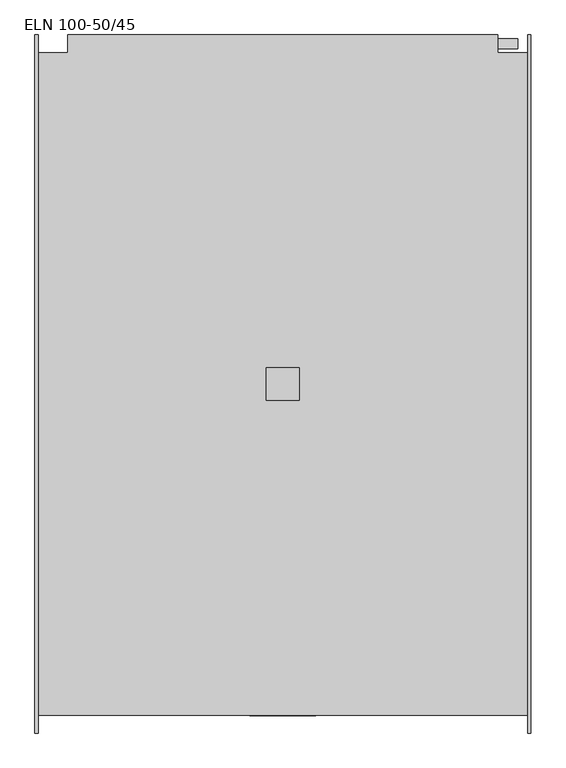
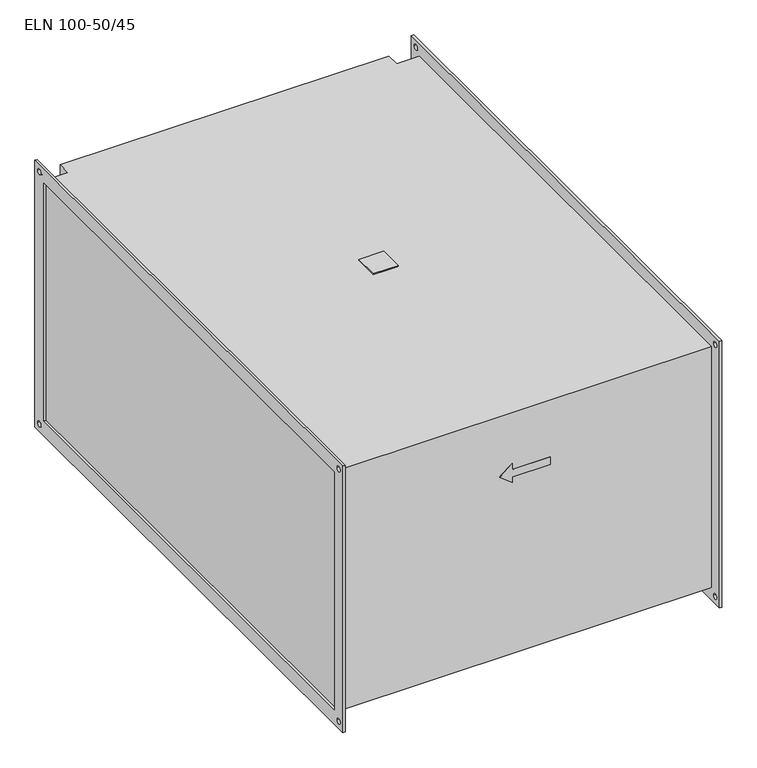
"""IFC4 building model written with IfcOpenShell, lengths in millimetres: proxy geometry, KORF_Нагреватель_Электрический_ELN : ELN 100-50/45."""

from ifc_helpers import new_model, si_unit, point, frame, frame_2d, origin, place, context, project, spatial, polyline, circle_curve, trimmed, segment, composite_curve, outline, extrude, source, transform, mapped, element, save


def eln_100_50_45_c4674b5d(model_context):
    return source(origin(), model_context, "Body", "SweptSolid", [
        extrude(outline(polyline([(351.5, -25.0), (351.5, 25.0), (401.5, 25.0), (401.5, -25.0), (351.5, -25.0)])), frame((0.0, 0.0, 253.0), z_axis=(0.0, 0.0, 1.0), x_axis=(1.0, 0.0, 0.0)), (0.0, 0.0, 1.0), 2.0),
        extrude(outline(composite_curve([segment(trimmed(circle_curve(frame_2d((516.5, -126.5)), 7.5), [point((509.0, -126.5))], [point((524.0, -126.5))], False, "CARTESIAN"), True, "CONTINUOUS"), segment(trimmed(circle_curve(frame_2d((516.5, -126.5)), 7.5), [point((524.0, -126.5))], [point((509.0, -126.5))], False, "CARTESIAN"), True, "CONTINUOUS")], self_intersect=False)), frame((703.0, 0.0, 0.0), z_axis=(1.0, 0.0, 0.0), x_axis=(0.0, 1.0, 0.0)), (0.0, 0.0, 1.0), 30.0),
        extrude(outline(composite_curve([segment(trimmed(circle_curve(frame_2d((516.5, -106.5)), 7.5), [point((509.0, -106.5))], [point((524.0, -106.5))], False, "CARTESIAN"), True, "CONTINUOUS"), segment(trimmed(circle_curve(frame_2d((516.5, -106.5)), 7.5), [point((524.0, -106.5))], [point((509.0, -106.5))], False, "CARTESIAN"), True, "CONTINUOUS")], self_intersect=False)), frame((703.0, 0.0, 0.0), z_axis=(1.0, 0.0, 0.0), x_axis=(0.0, 1.0, 0.0)), (0.0, 0.0, 1.0), 30.0),
        extrude(outline(composite_curve([segment(trimmed(circle_curve(frame_2d((516.5, -146.5)), 7.5), [point((509.0, -146.5))], [point((524.0, -146.5))], False, "CARTESIAN"), True, "CONTINUOUS"), segment(trimmed(circle_curve(frame_2d((516.5, -146.5)), 7.5), [point((524.0, -146.5))], [point((509.0, -146.5))], False, "CARTESIAN"), True, "CONTINUOUS")], self_intersect=False)), frame((703.0, 0.0, 0.0), z_axis=(1.0, 0.0, 0.0), x_axis=(0.0, 1.0, 0.0)), (0.0, 0.0, 1.0), 30.0),
        extrude(outline(polyline([(146.5, 351.5), (126.5, 326.5), (106.5, 351.5), (119.0, 351.5), (119.0, 426.5), (134.0, 426.5), (134.0, 351.5), (146.5, 351.5)])), frame((0.0, -504.0, 0.0), z_axis=(0.0, 1.0, 0.0), x_axis=(0.0, 0.0, 1.0)), (0.0, 0.0, 1.0), 1.0),
        extrude(outline(polyline([(748.0, 503.0), (748.0, -503.0), (5.0, -503.0), (5.0, 503.0), (50.0, 503.0), (50.0, 530.0), (703.0, 530.0), (703.0, 503.0), (748.0, 503.0)])), frame((0.0, 0.0, -253.0), z_axis=(0.0, 0.0, 1.0), x_axis=(1.0, 0.0, 0.0)), (0.0, 0.0, 1.0), 506.0),
        extrude(outline(polyline([(-530.0, 280.0), (530.0, 280.0), (530.0, -280.0), (-530.0, -280.0), (-530.0, 280.0)]), holes=[polyline([(-500.0, 250.0), (-500.0, -250.0), (500.0, -250.0), (500.0, 250.0), (-500.0, 250.0)]), composite_curve([segment(trimmed(circle_curve(frame_2d((515.0, 265.0)), 5.5), [point((509.5, 265.0))], [point((520.5, 265.0))], True, "CARTESIAN"), True, "CONTINUOUS"), segment(trimmed(circle_curve(frame_2d((515.0, 265.0)), 5.5), [point((520.5, 265.0))], [point((509.5, 265.0))], True, "CARTESIAN"), True, "CONTINUOUS")], self_intersect=False), composite_curve([segment(trimmed(circle_curve(frame_2d((-515.0, 265.0)), 5.5), [point((-520.5, 265.0))], [point((-509.5, 265.0))], True, "CARTESIAN"), True, "CONTINUOUS"), segment(trimmed(circle_curve(frame_2d((-515.0, 265.0)), 5.5), [point((-509.5, 265.0))], [point((-520.5, 265.0))], True, "CARTESIAN"), True, "CONTINUOUS")], self_intersect=False), composite_curve([segment(trimmed(circle_curve(frame_2d((-515.0, -265.0)), 5.5), [point((-520.5, -265.0))], [point((-509.5, -265.0))], True, "CARTESIAN"), True, "CONTINUOUS"), segment(trimmed(circle_curve(frame_2d((-515.0, -265.0)), 5.5), [point((-509.5, -265.0))], [point((-520.5, -265.0))], True, "CARTESIAN"), True, "CONTINUOUS")], self_intersect=False), composite_curve([segment(trimmed(circle_curve(frame_2d((515.0, -265.0)), 5.5), [point((509.5, -265.0))], [point((520.5, -265.0))], True, "CARTESIAN"), True, "CONTINUOUS"), segment(trimmed(circle_curve(frame_2d((515.0, -265.0)), 5.5), [point((520.5, -265.0))], [point((509.5, -265.0))], True, "CARTESIAN"), True, "CONTINUOUS")], self_intersect=False)]), frame((748.0, 0.0, 0.0), z_axis=(1.0, 0.0, 0.0), x_axis=(0.0, 1.0, 0.0)), (0.0, 0.0, 1.0), 5.0),
        extrude(outline(polyline([(-530.0, 280.0), (530.0, 280.0), (530.0, -280.0), (-530.0, -280.0), (-530.0, 280.0)]), holes=[polyline([(-500.0, 250.0), (-500.0, -250.0), (500.0, -250.0), (500.0, 250.0), (-500.0, 250.0)]), composite_curve([segment(trimmed(circle_curve(frame_2d((515.0, 265.0)), 5.5), [point((509.5, 265.0))], [point((520.5, 265.0))], True, "CARTESIAN"), True, "CONTINUOUS"), segment(trimmed(circle_curve(frame_2d((515.0, 265.0)), 5.5), [point((520.5, 265.0))], [point((509.5, 265.0))], True, "CARTESIAN"), True, "CONTINUOUS")], self_intersect=False), composite_curve([segment(trimmed(circle_curve(frame_2d((-515.0, 265.0)), 5.5), [point((-520.5, 265.0))], [point((-509.5, 265.0))], True, "CARTESIAN"), True, "CONTINUOUS"), segment(trimmed(circle_curve(frame_2d((-515.0, 265.0)), 5.5), [point((-509.5, 265.0))], [point((-520.5, 265.0))], True, "CARTESIAN"), True, "CONTINUOUS")], self_intersect=False), composite_curve([segment(trimmed(circle_curve(frame_2d((-515.0, -265.0)), 5.5), [point((-520.5, -265.0))], [point((-509.5, -265.0))], True, "CARTESIAN"), True, "CONTINUOUS"), segment(trimmed(circle_curve(frame_2d((-515.0, -265.0)), 5.5), [point((-509.5, -265.0))], [point((-520.5, -265.0))], True, "CARTESIAN"), True, "CONTINUOUS")], self_intersect=False), composite_curve([segment(trimmed(circle_curve(frame_2d((515.0, -265.0)), 5.5), [point((509.5, -265.0))], [point((520.5, -265.0))], True, "CARTESIAN"), True, "CONTINUOUS"), segment(trimmed(circle_curve(frame_2d((515.0, -265.0)), 5.5), [point((520.5, -265.0))], [point((509.5, -265.0))], True, "CARTESIAN"), True, "CONTINUOUS")], self_intersect=False)]), frame((0.0, 0.0, 0.0), z_axis=(1.0, 0.0, 0.0), x_axis=(0.0, 1.0, 0.0)), (0.0, 0.0, 1.0), 5.0),
    ])


if __name__ == "__main__":
    model = new_model("IFC4")
    model_context = context("Model", 3, world=origin())
    ifc_project = project(units=[si_unit("LENGTHUNIT", "METRE", prefix="MILLI")], contexts=[model_context])
    site = spatial("IfcSite", under=ifc_project)
    building = spatial("IfcBuilding", under=site)
    placement = place(None, origin())
    eln_100_50_45_shape = eln_100_50_45_c4674b5d(model_context)
    element("IfcBuildingElementProxy", 1, Name="KORF_Нагреватель_Электрический_ELN : ELN 100-50/45", ObjectType="KORF_Нагреватель_Электрический_ELN : ELN 100-50/45", at=placement, inside=building, context=model_context, shape_type="MappedRepresentation", body=[
        mapped(eln_100_50_45_shape, transform((0.0, 0.0, 0.0), x_axis=(1.0, 0.0, 0.0), y_axis=(0.0, 1.0, 0.0), z_axis=(0.0, 0.0, 1.0))),
    ])
    save(model, "model.ifc")
